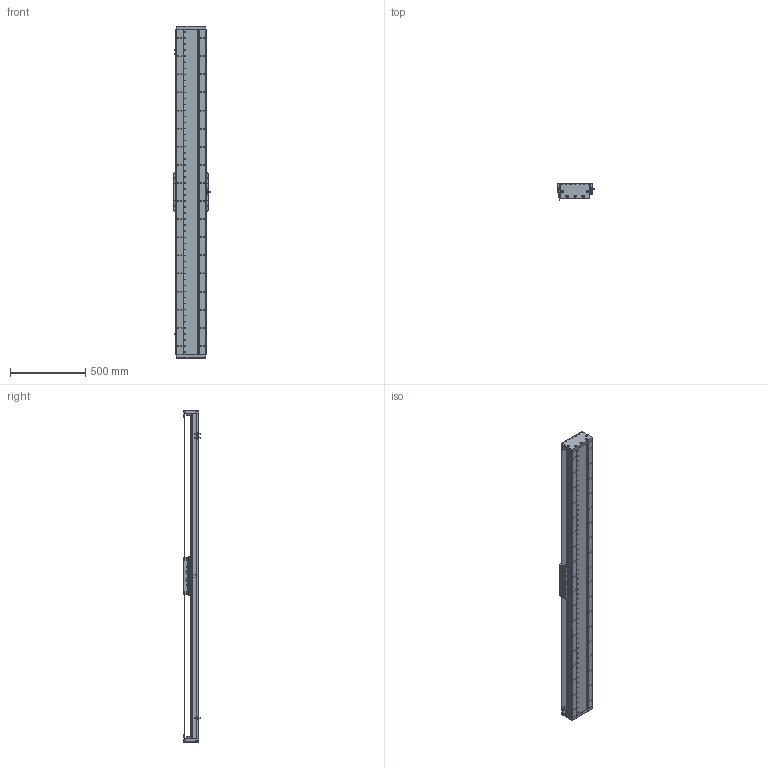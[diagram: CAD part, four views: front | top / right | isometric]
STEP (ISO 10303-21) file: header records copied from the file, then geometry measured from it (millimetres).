
FILE_DESCRIPTION (( 'STEP AP203' ), '1' );
FILE_NAME ('DA-C195-C3-T1860-C010-0.2 眻盄萇儂.STEP', '2025-08-15T01:35:56', ( '' ), ( '' ), 'SwSTEP 2.0', 'SolidWorks 2019', '' );
FILE_SCHEMA (( 'CONFIG_CONTROL_DESIGN' ));
Length unit declared in the file: millimetre
Products named in the file (15): DA195詩湍菜輸; DA195詩湍嶺輸; DA195詩湍郪璃; LMT黍杅芛; DA165-GYP-00 光电感应片(默认); DA195詩湍裔啣; DA-C195-GD-DB-H-00 傷啣; CU195-C3賑輸-俋楷; PM-T45ㄗ侂狟ㄘ; 葩璃 DA95-GT-T-00; IU-CU195-L 菁釱絳寢; DA-C195-C3-T1860-C010-0.2 眻盄萇儂; MS200 棠掑喜S315-T240; DA95-HXJ-00 遣喳砎蝶; IU-CU195-L-00 菁釱(L2160)
Assembly tree (29 placements, depth 3):
  DA-C195-C3-T1860-C010-0.2 眻盄萇儂
    DA195詩湍郪璃
      DA195詩湍菜輸  x2
      DA195詩湍裔啣
      DA195詩湍嶺輸  x2
      DA95-HXJ-00 遣喳砎蝶  x8
      DA-C195-GD-DB-H-00 傷啣  x2
    IU-CU195-L 菁釱絳寢
      IU-CU195-L-00 菁釱(L2160)
      葩璃 DA95-GT-T-00  x4
    LMT黍杅芛
    MS200 棠掑喜S315-T240
    PM-T45ㄗ侂狟ㄘ  x3
    DA165-GYP-00 光电感应片(默认)
    CU195-C3賑輸-俋楷
Bounding box: 248 x 115.45 x 2200 mm (x, y, z)
Volume: 13317609 mm3; surface area: 3875978.1 mm2
Topology: 86 solids, 118 shells, 4144 faces, 11463 edges, 7201 vertices
Faces by surface type: cylinder 2186, plane 1356, cone 514, torus 52, sphere 36
Entity records: 129661 total; most frequent: CARTESIAN_POINT 33820, ORIENTED_EDGE 19842, DIRECTION 19422, EDGE_CURVE 9921, AXIS2_PLACEMENT_3D 7285, VERTEX_POINT 6403, VECTOR 4852, LINE 4852
